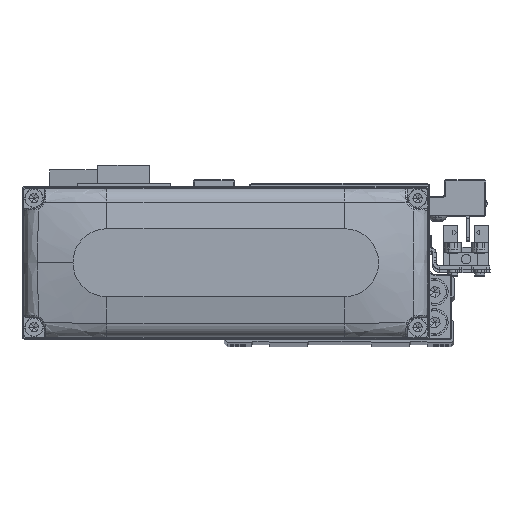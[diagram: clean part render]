
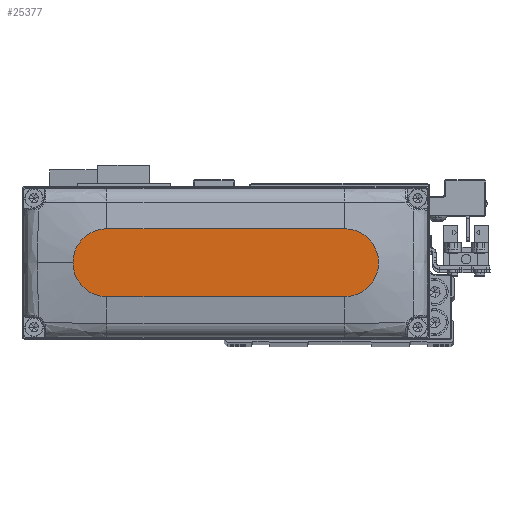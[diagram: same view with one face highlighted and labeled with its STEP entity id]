
A CAD part, top view. The second image highlights one B-rep face of the part: STEP entity #25377.
In plain terms, the highlighted planar face has unit normal (0, 0, 1).
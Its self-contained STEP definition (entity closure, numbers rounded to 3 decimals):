
#614 = AXIS2_PLACEMENT_3D ( 'NONE', #21430, #33844, #6035 ) ;
#2337 = DIRECTION ( 'NONE',  ( 1., 0., 0. ) ) ;
#2358 = ORIENTED_EDGE ( 'NONE', *, *, #22854, .T. ) ;
#2593 = VERTEX_POINT ( 'NONE', #5832 ) ;
#3798 = CIRCLE ( 'NONE', #26466, 10. ) ;
#4153 = EDGE_LOOP ( 'NONE', ( #2358, #5630, #39855, #32441, #28658 ) ) ;
#4677 = CARTESIAN_POINT ( 'NONE',  ( -35., -10., 28. ) ) ;
#5083 = LINE ( 'NONE', #17423, #29270 ) ;
#5368 = PLANE ( 'NONE',  #22468 ) ;
#5630 = ORIENTED_EDGE ( 'NONE', *, *, #26631, .T. ) ;
#5778 = CARTESIAN_POINT ( 'NONE',  ( 35., 0., 28. ) ) ;
#5832 = CARTESIAN_POINT ( 'NONE',  ( 35., -10., 28. ) ) ;
#6035 = DIRECTION ( 'NONE',  ( 1., 0., 0. ) ) ;
#10958 = EDGE_CURVE ( 'NONE', #2593, #27041, #13557, .T. ) ;
#11091 = CARTESIAN_POINT ( 'NONE',  ( -35., 0., 28. ) ) ;
#13292 = VERTEX_POINT ( 'NONE', #27584 ) ;
#13557 = CIRCLE ( 'NONE', #36256, 10. ) ;
#13962 = LINE ( 'NONE', #26363, #29031 ) ;
#14618 = CARTESIAN_POINT ( 'NONE',  ( 45., 0., 28. ) ) ;
#16548 = VERTEX_POINT ( 'NONE', #22439 ) ;
#17423 = CARTESIAN_POINT ( 'NONE',  ( -35., -10., 28. ) ) ;
#17709 = CARTESIAN_POINT ( 'NONE',  ( 0., 0., 28. ) ) ;
#18072 = CIRCLE ( 'NONE', #614, 10. ) ;
#18123 = DIRECTION ( 'NONE',  ( 0., 0., 1. ) ) ;
#21430 = CARTESIAN_POINT ( 'NONE',  ( 35., 0., 28. ) ) ;
#22439 = CARTESIAN_POINT ( 'NONE',  ( 35., 10., 28. ) ) ;
#22468 = AXIS2_PLACEMENT_3D ( 'NONE', #17709, #30108, #2337 ) ;
#22840 = VERTEX_POINT ( 'NONE', #4677 ) ;
#22854 = EDGE_CURVE ( 'NONE', #16548, #13292, #13962, .T. ) ;
#23461 = DIRECTION ( 'NONE',  ( 0., 0., 1. ) ) ;
#25377 = ADVANCED_FACE ( 'NONE', ( #33175 ), #5368, .T. ) ;
#26363 = CARTESIAN_POINT ( 'NONE',  ( -35., 10., 28. ) ) ;
#26466 = AXIS2_PLACEMENT_3D ( 'NONE', #11091, #23461, #35871 ) ;
#26631 = EDGE_CURVE ( 'NONE', #13292, #22840, #3798, .T. ) ;
#27041 = VERTEX_POINT ( 'NONE', #14618 ) ;
#27584 = CARTESIAN_POINT ( 'NONE',  ( -35., 10., 28. ) ) ;
#28658 = ORIENTED_EDGE ( 'NONE', *, *, #29000, .T. ) ;
#29000 = EDGE_CURVE ( 'NONE', #27041, #16548, #18072, .T. ) ;
#29031 = VECTOR ( 'NONE', #38742, 1000. ) ;
#29270 = VECTOR ( 'NONE', #29824, 1000. ) ;
#29824 = DIRECTION ( 'NONE',  ( 1., 0., 0. ) ) ;
#30108 = DIRECTION ( 'NONE',  ( 0., 0., 1. ) ) ;
#30527 = DIRECTION ( 'NONE',  ( 1., 0., 0. ) ) ;
#32441 = ORIENTED_EDGE ( 'NONE', *, *, #10958, .T. ) ;
#33175 = FACE_OUTER_BOUND ( 'NONE', #4153, .T. ) ;
#33844 = DIRECTION ( 'NONE',  ( 0., 0., 1. ) ) ;
#34834 = EDGE_CURVE ( 'NONE', #22840, #2593, #5083, .T. ) ;
#35871 = DIRECTION ( 'NONE',  ( 1., 0., 0. ) ) ;
#36256 = AXIS2_PLACEMENT_3D ( 'NONE', #5778, #18123, #30527 ) ;
#38742 = DIRECTION ( 'NONE',  ( -1., 0., 0. ) ) ;
#39855 = ORIENTED_EDGE ( 'NONE', *, *, #34834, .T. ) ;
